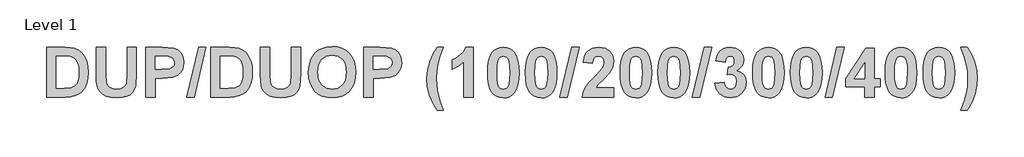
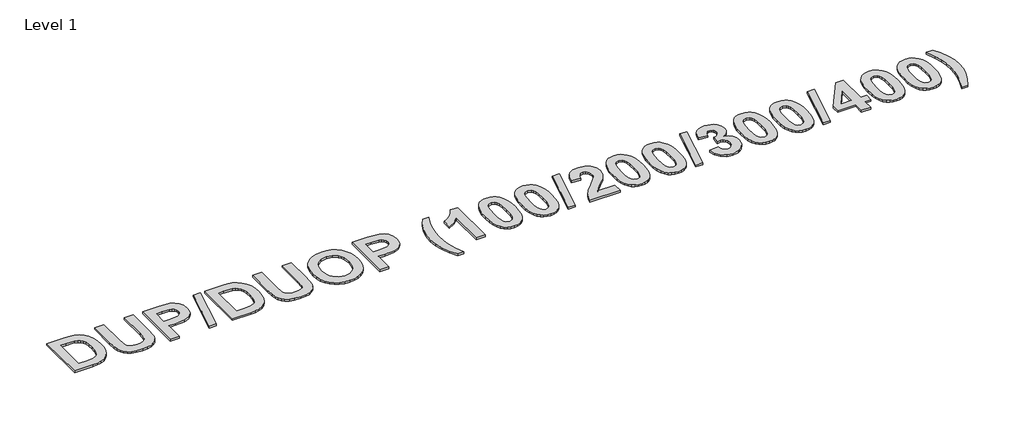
# One storey, part 10 of 42: 1 proxy.
"""IFC4 building model written with IfcOpenShell, lengths in millimetres."""

import ifcopenshell
import ifcopenshell.guid

model = None  # the IFC model being written
_history = None  # IfcOwnerHistory: only IFC2X3 demands one
_inside = {}  # id of a spatial element -> (the spatial element, [elements in it])
_under = {}  # id of a project, library or spatial element -> (it, [spatial elements below it])
_declared = {}  # id of a project -> (the project, [libraries it declares])
_typed = {}  # id of a type object -> (the type object, [elements of that type])
_made_of = {}  # id of a material, layer set ... -> (it, [elements and type objects made of it])


def new_model(schema):
    """Start an empty IFC model of exactly this schema.

    Asked for "IFC4X3", IfcOpenShell would pick the latest addendum, in which some entities
    have other attributes; the version numbers below select the first issue.
    IFC2X3 requires an IfcOwnerHistory on every rooted entity: one is made here for all.
    """
    global model, _history
    if schema == "IFC4X3":
        model = ifcopenshell.file(schema_version=(4, 3, 0, 0))
    else:
        model = ifcopenshell.file(schema=schema)
    _inside.clear()
    _under.clear()
    _declared.clear()
    _typed.clear()
    _made_of.clear()
    _history = None
    if model.schema == "IFC2X3":
        org = make("IfcOrganization", Name="unknown")
        user = make(
            "IfcPersonAndOrganization",
            ThePerson=make("IfcPerson", FamilyName="unknown"),
            TheOrganization=org,
        )
        app = make(
            "IfcApplication",
            ApplicationDeveloper=org,
            Version="unknown",
            ApplicationFullName="unknown",
            ApplicationIdentifier="unknown",
        )
        _history = make(
            "IfcOwnerHistory",
            OwningUser=user,
            OwningApplication=app,
            ChangeAction="ADDED",
            CreationDate=0,
        )
    return model


def make(cls, **values):
    """One entity of the class cls with the attributes given. An attribute that is None is left unset."""
    return model.create_entity(
        cls, **{name: value for name, value in values.items() if value is not None}
    )


def rooted(cls, **values):
    """An entity with a GlobalId (a new one), such as an element, a storey or a relation."""
    return make(cls, GlobalId=ifcopenshell.guid.new(), OwnerHistory=_history, **values)


def si_unit(unit_type, name, prefix=None):
    """IfcSIUnit, for example si_unit("LENGTHUNIT", "METRE", prefix="MILLI")."""
    return make("IfcSIUnit", UnitType=unit_type, Prefix=prefix, Name=name)


def assignment(units):
    """IfcUnitAssignment: the units of a project."""
    return None if units is None else make("IfcUnitAssignment", Units=units)


def point(xyz):
    """IfcCartesianPoint."""
    return None if xyz is None else make("IfcCartesianPoint", Coordinates=xyz)


def direction(xyz):
    """IfcDirection."""
    return None if xyz is None else make("IfcDirection", DirectionRatios=xyz)


def frame(location, z_axis=None, x_axis=None):
    """IfcAxis2Placement3D, a coordinate frame: its origin and axes. An axis left out is left unset."""
    return make(
        "IfcAxis2Placement3D",
        Location=point(location),
        Axis=direction(z_axis),
        RefDirection=direction(x_axis),
    )


def origin():
    """The frame at (0, 0, 0) with its axes left unset."""
    return frame((0.0, 0.0, 0.0))


def origin_with_axes():
    """The frame at (0, 0, 0) with the z axis (0, 0, 1) and the x axis (1, 0, 0) written out."""
    return frame((0.0, 0.0, 0.0), z_axis=(0.0, 0.0, 1.0), x_axis=(1.0, 0.0, 0.0))


def place(relative_to, where):
    """IfcLocalPlacement: puts the frame where relative to a parent placement (None: the world)."""
    return make(
        "IfcLocalPlacement", PlacementRelTo=relative_to, RelativePlacement=where
    )


def context(
    kind, dimensions, precision=None, world=None, true_north=None, identifier=None
):
    """IfcGeometricRepresentationContext, for example the 3D "Model" context."""
    return make(
        "IfcGeometricRepresentationContext",
        ContextIdentifier=identifier,
        ContextType=kind,
        CoordinateSpaceDimension=dimensions,
        Precision=precision,
        WorldCoordinateSystem=world,
        TrueNorth=true_north,
    )


def project(units=None, contexts=None):
    """IfcProject with its units and contexts."""
    return rooted(
        "IfcProject",
        Name="project",
        RepresentationContexts=contexts,
        UnitsInContext=assignment(units),
    )


def spatial(cls, under=None, at=None, **own):
    """A site, building, storey or space (cls), placed at a placement, below another one or the project."""
    s = rooted(cls, ObjectPlacement=at, **own)
    if under is not None:
        _under.setdefault(under.id(), (under, []))[1].append(s)
    return s


def polyline(points):
    """IfcPolyline through the points."""
    return make("IfcPolyline", Points=[point(p) for p in points])


def outline(outer, holes=None, kind="AREA"):
    """IfcArbitraryClosedProfileDef: a profile drawn as a closed curve; with holes, ...WithVoids."""
    if holes is None:
        return make("IfcArbitraryClosedProfileDef", ProfileType=kind, OuterCurve=outer)
    return make(
        "IfcArbitraryProfileDefWithVoids",
        ProfileType=kind,
        OuterCurve=outer,
        InnerCurves=holes,
    )


def extrude(swept, where, along, depth):
    """IfcExtrudedAreaSolid: the profile swept, set in the frame where, extruded along a direction by depth."""
    return make(
        "IfcExtrudedAreaSolid",
        SweptArea=swept,
        Position=where,
        ExtrudedDirection=direction(along),
        Depth=depth,
    )


def shape(context_of_items, identifier, shape_type, items):
    """IfcShapeRepresentation: the items that make up one representation, for example the "Body"."""
    return make(
        "IfcShapeRepresentation",
        ContextOfItems=context_of_items,
        RepresentationIdentifier=identifier,
        RepresentationType=shape_type,
        Items=items,
    )


def made_of(thing, what):
    """Note that an element or type object is made of a material, layer set ...; save() writes the relation."""
    if what is not None:
        _made_of.setdefault(what.id(), (what, []))[1].append(thing)
    return thing


def element(
    cls,
    number,
    at=None,
    inside=None,
    cuts=None,
    type_object=None,
    material=None,
    context=None,
    identifier="Body",
    shape_type=None,
    held_by="IfcProductDefinitionShape",
    body=None,
    shapes=None,
    **own,
):
    """One element of the class cls, such as IfcWall. Its Tag is "e" and its number.

    at: its placement. inside: the storey or other place that contains it. cuts: it is an
    opening in that element (IfcRelVoidsElement). A single representation is given by context,
    identifier, shape_type and body (its items); several are given by shapes. held_by: the class
    of the entity that holds the representations. save() writes the other relations.
    """
    e = rooted(cls, Tag="e%d" % number, ObjectPlacement=at, **own)
    if body is not None:
        shapes = [shape(context, identifier, shape_type, body)]
    if shapes is not None:
        e.Representation = make(held_by, Representations=shapes)
    if inside is not None:
        _inside.setdefault(inside.id(), (inside, []))[1].append(e)
    if cuts is not None:
        rooted(
            "IfcRelVoidsElement", RelatingBuildingElement=cuts, RelatedOpeningElement=e
        )
    if type_object is not None:
        _typed.setdefault(type_object.id(), (type_object, []))[1].append(e)
    return made_of(e, material)


def aggregate(whole, parts):
    """IfcRelAggregates: a whole, such as a stair, and the parts it consists of."""
    return rooted("IfcRelAggregates", RelatingObject=whole, RelatedObjects=parts)


def save(model, path):
    """Write the relations noted so far, then the file.

    IfcRelAggregates (storeys below a building ...), IfcRelContainedInSpatialStructure (elements
    in a storey), IfcRelDefinesByType, IfcRelAssociatesMaterial and IfcRelDeclares: one each for
    every whole, place, type object, material and project.
    """
    for whole, parts in _under.values():
        aggregate(whole, parts)
    for where, things in _inside.values():
        rooted(
            "IfcRelContainedInSpatialStructure",
            RelatedElements=things,
            RelatingStructure=where,
        )
    for kind, things in _typed.values():
        rooted("IfcRelDefinesByType", RelatedObjects=things, RelatingType=kind)
    for what, things in _made_of.values():
        rooted("IfcRelAssociatesMaterial", RelatedObjects=things, RelatingMaterial=what)
    for by, libraries in _declared.values():
        rooted("IfcRelDeclares", RelatingContext=by, RelatedDefinitions=libraries)
    model.write(path)


model = new_model("IFC4")

# Units and contexts
model_context = context("Model", 3, world=origin())
ifc_project = project(units=[si_unit("LENGTHUNIT", "METRE", prefix="MILLI")], contexts=[model_context])

# Site, building, storey
site = spatial("IfcSite", under=ifc_project)
building = spatial("IfcBuilding", under=site)
storey = spatial("IfcBuildingStorey", under=building, Name="Level 1", Elevation=0.0)

# Proxy
placement = place(None, origin())
element("IfcBuildingElementProxy", 1, Name="300mm Arial 2", ObjectType="300mm Arial 2", at=placement, inside=storey, context=model_context, shape_type="SweptSolid", body=[
    extrude(outline(polyline([(20343.7052644, -2889.2204924), (20438.1526406, -2889.2204924), (20466.3033991, -2890.43825), (20486.8629418, -2894.0915225), (20507.7704153, -2903.2879642), (20525.451622, -2917.5926614), (20539.5981689, -2936.3492904), (20549.9016628, -2958.9015272), (20556.1881384, -2986.2061815), (20558.2836302, -3019.2200625), (20556.3225661, -3048.5095034), (20550.4393739, -3073.4972553), (20538.7678797, -3098.6747876), (20522.9844769, -3118.5384689), (20507.2010741, -3130.146703), (20486.6731614, -3138.9082312), (20466.6987749, -3142.9410646), (20440.9360864, -3144.2853424), (20343.7052644, -3144.2853424), (20343.7052644, -2889.2204924)]), holes=[polyline([(20392.2890453, -2933.755625), (20392.2890453, -3099.7502099), (20433.6611713, -3099.7502099), (20467.1890409, -3097.3463249), (20489.5514974, -3086.9400333), (20497.6250717, -3077.2058805), (20504.0696976, -3062.743033), (20508.2923113, -3042.8477216), (20509.6998493, -3016.8161776), (20508.2923113, -2991.1483792), (20504.0696976, -2972.2177849), (20497.3245861, -2958.3638161), (20488.3495549, -2947.9258944), (20476.8915636, -2940.6193492), (20462.6975716, -2936.15951), (20417.2135371, -2933.755625), (20392.2890453, -2933.755625)])]), origin_with_axes(), (0.0, 0.0, 1.0), 10.0),
    extrude(outline(polyline([(20598.7701143, -2889.2204924), (20647.3538953, -2889.2204924), (20647.3538953, -3026.8112783), (20649.4414796, -3069.3220867), (20655.5302673, -3083.3579283), (20666.5849753, -3094.3414686), (20682.6056035, -3101.4345109), (20703.5921521, -3103.7988583), (20724.5549782, -3101.5689387), (20739.618797, -3094.8791798), (20749.3213197, -3084.9394316), (20754.2002573, -3072.9595442), (20756.6674024, -3029.7845045), (20756.6674024, -2889.2204924), (20805.2511834, -2889.2204924), (20805.2511834, -3023.0156704), (20801.0127546, -3087.8573052), (20794.9872271, -3105.3091939), (20785.3875021, -3119.8353016), (20772.079152, -3131.5621485), (20754.9277488, -3140.6162548), (20732.9369456, -3146.4045568), (20705.1103953, -3148.3339908), (20672.5156126, -3146.2305915), (20648.8721384, -3139.9203933), (20631.7128278, -3130.2415932), (20618.5705355, -3118.0323879), (20609.3345563, -3104.2258642), (20603.894185, -3089.7551091), (20600.051132, -3062.6481428), (20598.7701143, -3025.1032548), (20598.7701143, -2889.2204924)])), origin_with_axes(), (0.0, 0.0, 1.0), 10.0),
    extrude(outline(polyline([(20853.8349643, -3144.2853424), (20853.8349643, -2889.2204924), (20936.0098751, -2889.2204924), (20996.9293817, -2893.0161003), (21016.9749358, -2902.0702066), (21033.4621076, -2917.8457019), (21044.493093, -2939.7574299), (21048.1700881, -2967.2202345), (21046.0113361, -2988.7049566), (21039.5350802, -3006.4731461), (21029.7297598, -3020.6750456), (21017.5838146, -3031.460898), (20990.5401084, -3043.511953), (20936.452696, -3047.1177805), (20902.4187453, -3047.1177805), (20902.4187453, -3144.2853424), (20853.8349643, -3144.2853424)]), holes=[polyline([(20902.4187453, -2933.755625), (20902.4187453, -3002.582648), (20932.593828, -3002.582648), (20976.1484285, -2998.7870401), (20993.3551842, -2986.8625053), (20998.0285264, -2978.0772546), (20999.5863072, -2967.9793561), (20997.3959251, -2955.912486), (20990.824779, -2946.1546107), (20980.9166609, -2939.1643662), (20968.715363, -2935.4003884), (20929.0512606, -2933.755625), (20902.4187453, -2933.755625)])]), origin_with_axes(), (0.0, 0.0, 1.0), 10.0),
    extrude(outline(polyline([(21063.4790399, -3144.2853424), (21124.2087661, -2889.2204924), (21161.5322437, -2889.2204924), (21100.8025175, -3144.2853424), (21063.4790399, -3144.2853424)])), origin_with_axes(), (0.0, 0.0, 1.0), 10.0),
    extrude(outline(polyline([(21185.8241342, -2889.2204924), (21280.2715104, -2889.2204924), (21308.4222689, -2890.43825), (21328.9818116, -2894.0915225), (21349.8892851, -2903.2879642), (21367.5704918, -2917.5926614), (21381.7170387, -2936.3492904), (21392.0205326, -2958.9015272), (21398.3070082, -2986.2061815), (21400.4025, -3019.2200625), (21398.4414359, -3048.5095034), (21392.5582437, -3073.4972553), (21380.8867495, -3098.6747876), (21365.1033467, -3118.5384689), (21349.3199439, -3130.146703), (21328.7920312, -3138.9082312), (21308.8176447, -3142.9410646), (21283.0549562, -3144.2853424), (21185.8241342, -3144.2853424), (21185.8241342, -2889.2204924)]), holes=[polyline([(21234.4079151, -2933.755625), (21234.4079151, -3099.7502099), (21275.7800411, -3099.7502099), (21309.3079107, -3097.3463249), (21331.6703672, -3086.9400333), (21339.7439415, -3077.2058805), (21346.1885674, -3062.743033), (21350.4111811, -3042.8477216), (21351.8187191, -3016.8161776), (21350.4111811, -2991.1483792), (21346.1885674, -2972.2177849), (21339.4434559, -2958.3638161), (21330.4684247, -2947.9258944), (21319.0104334, -2940.6193492), (21304.8164414, -2936.15951), (21259.3324069, -2933.755625), (21234.4079151, -2933.755625)])]), origin_with_axes(), (0.0, 0.0, 1.0), 10.0),
    extrude(outline(polyline([(21440.8889842, -2889.2204924), (21489.4727651, -2889.2204924), (21489.4727651, -3026.8112783), (21491.5603494, -3069.3220867), (21497.6491371, -3083.3579283), (21508.7038451, -3094.3414686), (21524.7244733, -3101.4345109), (21545.711022, -3103.7988583), (21566.673848, -3101.5689387), (21581.7376668, -3094.8791798), (21591.4401895, -3084.9394316), (21596.3191271, -3072.9595442), (21598.7862722, -3029.7845045), (21598.7862722, -2889.2204924), (21647.3700532, -2889.2204924), (21647.3700532, -3023.0156704), (21643.1316244, -3087.8573052), (21637.1060969, -3105.3091939), (21627.5063719, -3119.8353016), (21614.1980218, -3131.5621485), (21597.0466186, -3140.6162548), (21575.0558154, -3146.4045568), (21547.2292651, -3148.3339908), (21514.6344824, -3146.2305915), (21490.9910083, -3139.9203933), (21473.8316976, -3130.2415932), (21460.6894053, -3118.0323879), (21451.4534261, -3104.2258642), (21446.0130548, -3089.7551091), (21442.1700018, -3062.6481428), (21440.8889842, -3025.1032548), (21440.8889842, -2889.2204924)])), origin_with_axes(), (0.0, 0.0, 1.0), 10.0),
    extrude(outline(polyline([(21687.8565373, -3018.3344207), (21690.7190583, -2982.5608164), (21699.3066211, -2953.0499651), (21709.4045196, -2934.6175443), (21722.6179795, -2918.1620026), (21738.0929892, -2904.6955021), (21754.9755368, -2895.2302049), (21780.1846992, -2887.6864342), (21808.999689, -2885.171844), (21835.2921812, -2887.3523417), (21858.8170425, -2893.8938346), (21879.5742732, -2904.7963229), (21897.5638731, -2920.0598065), (21912.0939345, -2939.2058807), (21922.4725498, -2961.7561406), (21928.699719, -2987.7105865), (21930.7754421, -3017.0692181), (21928.715534, -3046.2281849), (21922.5358099, -3072.0264573), (21912.2362698, -3094.4640351), (21897.8169136, -3113.5409185), (21879.9459264, -3128.7628877), (21859.2914935, -3139.6357228), (21835.8536148, -3146.1594238), (21809.6322903, -3148.3339908), (21783.1342028, -3146.1693082), (21759.4986362, -3139.6752603), (21738.7255905, -3128.8518472), (21720.8150658, -3113.6990689), (21706.3957096, -3094.7506826), (21696.0961694, -3072.5404458), (21689.9164453, -3047.0683585), (21687.8565373, -3018.3344207)]), holes=[polyline([(21736.4403183, -3016.563137), (21741.6039265, -3054.3136205), (21748.0584368, -3069.2865028), (21757.0947512, -3081.6578123), (21780.5405374, -3098.2635968), (21809.5690302, -3103.7988583), (21838.5342629, -3098.3031344), (21861.7902687, -3081.8159626), (21870.7158779, -3069.4505838), (21877.091313, -3054.337343), (21882.1916611, -3015.8672756), (21877.2257408, -2977.9744568), (21871.0183404, -2963.1557711), (21862.3279798, -2951.088901), (21839.2064018, -2935.0524577), (21809.5690302, -2929.7069766), (21779.8683985, -2935.1157178), (21756.5570401, -2951.3419415), (21747.7559743, -2963.5313781), (21741.4694987, -2978.4647229), (21736.4403183, -3016.563137)])]), origin_with_axes(), (0.0, 0.0, 1.0), 10.0),
    extrude(outline(polyline([(21971.2619262, -3144.2853424), (21971.2619262, -2889.2204924), (22053.4368369, -2889.2204924), (22114.3563435, -2893.0161003), (22134.4018977, -2902.0702066), (22150.8890694, -2917.8457019), (22161.9200549, -2939.7574299), (22165.59705, -2967.2202345), (22163.438298, -2988.7049566), (22156.9620421, -3006.4731461), (22147.1567217, -3020.6750456), (22135.0107764, -3031.460898), (22107.9670702, -3043.511953), (22053.8796579, -3047.1177805), (22019.8457071, -3047.1177805), (22019.8457071, -3144.2853424), (21971.2619262, -3144.2853424)]), holes=[polyline([(22019.8457071, -2933.755625), (22019.8457071, -3002.582648), (22050.0207898, -3002.582648), (22093.5753903, -2998.7870401), (22110.7821461, -2986.8625053), (22115.4554883, -2978.0772546), (22117.013269, -2967.9793561), (22114.822887, -2955.912486), (22108.2517408, -2946.1546107), (22098.3436227, -2939.1643662), (22086.1423249, -2935.4003884), (22046.4782225, -2933.755625), (22019.8457071, -2933.755625)])]), origin_with_axes(), (0.0, 0.0, 1.0), 10.0),
    extrude(outline(polyline([(22380.1754159, -3213.1123654), (22347.7862286, -3213.1123654), (22325.1153789, -3173.4403555), (22308.5965771, -3132.2342874), (22298.5144937, -3090.9333291), (22295.1537992, -3050.9766485), (22299.2657077, -3003.578995), (22311.6014334, -2958.806637), (22327.796027, -2922.5269516), (22347.7862286, -2889.2204924), (22380.1754159, -2889.2204924), (22362.6128219, -2936.4599956), (22351.5502064, -2976.0766529), (22345.6907367, -3012.9573095), (22343.7375801, -3051.9888106), (22348.4188299, -3108.6382583), (22361.2606366, -3163.7062028), (22380.1754159, -3213.1123654)])), origin_with_axes(), (0.0, 0.0, 1.0), 10.0),
    extrude(outline(polyline([(22534.0240555, -3144.2853424), (22485.4402746, -3144.2853424), (22485.4402746, -2961.9696436), (22457.3844063, -2985.8503432), (22424.7105484, -3002.582648), (22424.7105484, -2953.998867), (22444.1788538, -2944.9131306), (22465.2602927, -2930.1814275), (22483.716436, -2911.1638505), (22495.3088551, -2889.2204924), (22534.0240555, -2889.2204924), (22534.0240555, -3144.2853424)])), origin_with_axes(), (0.0, 0.0, 1.0), 10.0),
    extrude(outline(polyline([(22687.8726952, -2889.2204924), (22705.0043296, -2890.8652558), (22720.1511773, -2895.7995461), (22733.3132384, -2904.0233632), (22744.4905129, -2915.5367071), (22755.1458912, -2933.6646885), (22762.7568758, -2956.9246481), (22767.3234665, -2985.3165859), (22768.8456635, -3018.8405018), (22767.315559, -3052.3327876), (22762.7252457, -3080.7563554), (22755.0747236, -3104.1112052), (22744.3639926, -3122.3973369), (22733.2420707, -3133.744623), (22720.1195472, -3141.8498274), (22704.996422, -3146.71295), (22687.8726952, -3148.3339908), (22670.5651186, -3146.5547996), (22655.0169644, -3141.217226), (22641.2282327, -3132.3212701), (22629.1989233, -3119.8669317), (22619.4430249, -3102.8460026), (22612.474526, -3080.2502744), (22608.2934267, -3052.0797471), (22606.899727, -3018.3344207), (22608.4298314, -2985.0081927), (22613.0201447, -2956.7032376), (22620.6706668, -2933.4195555), (22631.3813978, -2915.1571463), (22642.5033197, -2903.8098602), (22655.6258432, -2895.7046559), (22670.7489684, -2890.8415333), (22687.8726952, -2889.2204924)]), holes=[polyline([(22687.8726952, -2933.755625), (22671.6781016, -2939.1011061), (22665.3520884, -2946.5737091), (22660.6708387, -2958.300556), (22656.7803406, -2982.4501111), (22655.4835079, -3018.8405018), (22656.6380053, -3054.7485339), (22660.1014975, -3077.3244933), (22665.3283659, -3090.5774908), (22671.7729918, -3098.5166373), (22687.8726952, -3103.7988583), (22704.0672889, -3098.4533772), (22710.393302, -3090.9807742), (22715.0745517, -3079.2539273), (22718.9650498, -3055.2308924), (22720.2618825, -3018.8405018), (22719.1073851, -2982.9720072), (22715.6438929, -2960.3881403), (22710.4170246, -2947.0956052), (22703.9723987, -2939.1011061), (22687.8726952, -2933.755625)])]), origin_with_axes(), (0.0, 0.0, 1.0), 10.0),
    extrude(outline(polyline([(22882.207819, -2889.2204924), (22899.3394534, -2890.8652558), (22914.4863011, -2895.7995461), (22927.6483622, -2904.0233632), (22938.8256367, -2915.5367071), (22949.481015, -2933.6646885), (22957.0919996, -2956.9246481), (22961.6585903, -2985.3165859), (22963.1807873, -3018.8405018), (22961.6506828, -3052.3327876), (22957.0603695, -3080.7563554), (22949.4098474, -3104.1112052), (22938.6991164, -3122.3973369), (22927.5771945, -3133.744623), (22914.454671, -3141.8498274), (22899.3315458, -3146.71295), (22882.207819, -3148.3339908), (22864.9002424, -3146.5547996), (22849.3520882, -3141.217226), (22835.5633565, -3132.3212701), (22823.5340471, -3119.8669317), (22813.7781487, -3102.8460026), (22806.8096498, -3080.2502744), (22802.6285505, -3052.0797471), (22801.2348508, -3018.3344207), (22802.7649552, -2985.0081927), (22807.3552685, -2956.7032376), (22815.0057906, -2933.4195555), (22825.7165216, -2915.1571463), (22836.8384435, -2903.8098602), (22849.960967, -2895.7046559), (22865.0840922, -2890.8415333), (22882.207819, -2889.2204924)]), holes=[polyline([(22882.207819, -2933.755625), (22866.0132254, -2939.1011061), (22859.6872122, -2946.5737091), (22855.0059625, -2958.300556), (22851.1154644, -2982.4501111), (22849.8186317, -3018.8405018), (22850.9731291, -3054.7485339), (22854.4366213, -3077.3244933), (22859.6634897, -3090.5774908), (22866.1081156, -3098.5166373), (22882.207819, -3103.7988583), (22898.4024127, -3098.4533772), (22904.7284258, -3090.9807742), (22909.4096755, -3079.2539273), (22913.3001736, -3055.2308924), (22914.5970063, -3018.8405018), (22913.4425089, -2982.9720072), (22909.9790167, -2960.3881403), (22904.7521484, -2947.0956052), (22898.3075225, -2939.1011061), (22882.207819, -2933.755625)])]), origin_with_axes(), (0.0, 0.0, 1.0), 10.0),
    extrude(outline(polyline([(22978.4897391, -3144.2853424), (23039.2194653, -2889.2204924), (23076.5429428, -2889.2204924), (23015.8132166, -3144.2853424), (22978.4897391, -3144.2853424)])), origin_with_axes(), (0.0, 0.0, 1.0), 10.0),
    extrude(outline(polyline([(23254.683473, -3095.7015615), (23254.683473, -3144.2853424), (23092.7375365, -3144.2853424), (23097.9090522, -3119.779949), (23108.2362687, -3096.6188334), (23127.4199035, -3070.4370465), (23159.1606745, -3036.8696392), (23196.7371926, -2996.1301146), (23203.7590671, -2981.422134), (23206.099692, -2966.9039338), (23204.1307204, -2952.7573869), (23198.2238056, -2942.3273728), (23188.8533987, -2935.8985619), (23176.4939505, -2933.755625), (23164.221485, -2935.8669319), (23154.7324653, -2942.2008525), (23148.343192, -2953.4216183), (23145.3699658, -2970.1934607), (23096.7861849, -2965.7652515), (23105.3895628, -2930.6163409), (23113.0124086, -2917.3771816), (23122.849359, -2907.0282194), (23147.4733652, -2893.6724242), (23177.5693727, -2889.2204924), (23209.7055195, -2894.2101353), (23234.1239302, -2909.1790639), (23249.5435873, -2931.5652429), (23254.683473, -2958.806637), (23249.0533213, -2990.9427838), (23231.2139642, -3022.8891502), (23201.0072514, -3054.7722564), (23173.2676838, -3082.4169339), (23164.1582249, -3095.7015615), (23254.683473, -3095.7015615)])), origin_with_axes(), (0.0, 0.0, 1.0), 10.0),
    extrude(outline(polyline([(23368.0456285, -2889.2204924), (23385.1772629, -2890.8652558), (23400.3241106, -2895.7995461), (23413.4861717, -2904.0233632), (23424.6634462, -2915.5367071), (23435.3188245, -2933.6646885), (23442.9298091, -2956.9246481), (23447.4963999, -2985.3165859), (23449.0185968, -3018.8405018), (23447.4884923, -3052.3327876), (23442.898179, -3080.7563554), (23435.2476569, -3104.1112052), (23424.5369259, -3122.3973369), (23413.415004, -3133.744623), (23400.2924805, -3141.8498274), (23385.1693553, -3146.71295), (23368.0456285, -3148.3339908), (23350.7380519, -3146.5547996), (23335.1898977, -3141.217226), (23321.401166, -3132.3212701), (23309.3718566, -3119.8669317), (23299.6159582, -3102.8460026), (23292.6474593, -3080.2502744), (23288.46636, -3052.0797471), (23287.0726603, -3018.3344207), (23288.6027647, -2985.0081927), (23293.193078, -2956.7032376), (23300.8436001, -2933.4195555), (23311.5543311, -2915.1571463), (23322.676253, -2903.8098602), (23335.7987765, -2895.7046559), (23350.9219017, -2890.8415333), (23368.0456285, -2889.2204924)]), holes=[polyline([(23368.0456285, -2933.755625), (23351.8510349, -2939.1011061), (23345.5250217, -2946.5737091), (23340.843772, -2958.300556), (23336.9532739, -2982.4501111), (23335.6564412, -3018.8405018), (23336.8109386, -3054.7485339), (23340.2744308, -3077.3244933), (23345.5012992, -3090.5774908), (23351.9459251, -3098.5166373), (23368.0456285, -3103.7988583), (23384.2402222, -3098.4533772), (23390.5662353, -3090.9807742), (23395.247485, -3079.2539273), (23399.1379831, -3055.2308924), (23400.4348158, -3018.8405018), (23399.2803184, -2982.9720072), (23395.8168262, -2960.3881403), (23390.5899579, -2947.0956052), (23384.145332, -2939.1011061), (23368.0456285, -2933.755625)])]), origin_with_axes(), (0.0, 0.0, 1.0), 10.0),
    extrude(outline(polyline([(23562.3807523, -2889.2204924), (23579.5123867, -2890.8652558), (23594.6592344, -2895.7995461), (23607.8212955, -2904.0233632), (23618.99857, -2915.5367071), (23629.6539483, -2933.6646885), (23637.2649329, -2956.9246481), (23641.8315237, -2985.3165859), (23643.3537206, -3018.8405018), (23641.8236161, -3052.3327876), (23637.2333028, -3080.7563554), (23629.5827807, -3104.1112052), (23618.8720497, -3122.3973369), (23607.7501278, -3133.744623), (23594.6276043, -3141.8498274), (23579.5044791, -3146.71295), (23562.3807523, -3148.3339908), (23545.0731757, -3146.5547996), (23529.5250215, -3141.217226), (23515.7362898, -3132.3212701), (23503.7069804, -3119.8669317), (23493.951082, -3102.8460026), (23486.9825831, -3080.2502744), (23482.8014838, -3052.0797471), (23481.4077841, -3018.3344207), (23482.9378885, -2985.0081927), (23487.5282018, -2956.7032376), (23495.1787239, -2933.4195555), (23505.8894549, -2915.1571463), (23517.0113768, -2903.8098602), (23530.1339003, -2895.7046559), (23545.2570255, -2890.8415333), (23562.3807523, -2889.2204924)]), holes=[polyline([(23562.3807523, -2933.755625), (23546.1861587, -2939.1011061), (23539.8601455, -2946.5737091), (23535.1788958, -2958.300556), (23531.2883977, -2982.4501111), (23529.991565, -3018.8405018), (23531.1460624, -3054.7485339), (23534.6095546, -3077.3244933), (23539.836423, -3090.5774908), (23546.2810489, -3098.5166373), (23562.3807523, -3103.7988583), (23578.575346, -3098.4533772), (23584.9013591, -3090.9807742), (23589.5826088, -3079.2539273), (23593.4731069, -3055.2308924), (23594.7699396, -3018.8405018), (23593.6154422, -2982.9720072), (23590.15195, -2960.3881403), (23584.9250817, -2947.0956052), (23578.4804558, -2939.1011061), (23562.3807523, -2933.755625)])]), origin_with_axes(), (0.0, 0.0, 1.0), 10.0),
    extrude(outline(polyline([(23658.6626724, -3144.2853424), (23719.3923986, -2889.2204924), (23756.7158761, -2889.2204924), (23695.9861499, -3144.2853424), (23658.6626724, -3144.2853424)])), origin_with_axes(), (0.0, 0.0, 1.0), 10.0),
    extrude(outline(polyline([(23772.9104698, -3072.9911743), (23821.4942507, -3067.3610226), (23825.2424135, -3082.986275), (23832.4382535, -3094.4363588), (23842.2910189, -3101.4582334), (23854.0099583, -3103.7988583), (23866.5829094, -3101.1182102), (23876.973386, -3093.076266), (23883.9478155, -3080.4954074), (23886.2726253, -3064.198016), (23884.1455034, -3048.778359), (23877.7641376, -3036.9328994), (23868.3146555, -3029.3891287), (23856.9831845, -3026.8745385), (23837.6888444, -3030.4803659), (23841.9272732, -2990.4367027), (23855.7575194, -2988.6970491), (23865.8712329, -2982.4659262), (23872.0628183, -2972.5973457), (23874.1266801, -2959.9453194), (23872.5847144, -2949.1990046), (23867.9588173, -2940.8723898), (23860.7708848, -2935.5348162), (23851.5428132, -2933.755625), (23842.1565911, -2935.8194868), (23834.2411672, -2942.0110721), (23828.4765877, -2952.1722307), (23825.5428991, -2966.1448123), (23776.9591182, -2958.8698971), (23782.5181022, -2937.1321345), (23790.338636, -2920.2495869), (23801.0612283, -2907.3366126), (23815.3263879, -2897.5075696), (23832.3196407, -2891.2922617), (23851.2265125, -2889.2204924), (23881.8760462, -2894.9613494), (23894.6625002, -2902.1374205), (23905.7567458, -2912.1839201), (23918.4720322, -2932.2057517), (23922.710461, -2954.6947285), (23920.4370501, -2970.6402354), (23913.6168171, -2984.8856262), (23902.2497623, -2997.430901), (23886.3358854, -3008.2760598), (23906.1995667, -3015.827738), (23921.6350388, -3029.1202731), (23931.5510644, -3046.9833527), (23934.8564063, -3068.2466644), (23928.9969366, -3099.0148109), (23911.4185276, -3124.8961121), (23898.9819811, -3135.1501841), (23885.1102204, -3142.4745212), (23853.0610563, -3148.3339908), (23822.7989909, -3143.1229375), (23798.1828923, -3127.4897775), (23780.968229, -3103.4430201), (23772.9104698, -3072.9911743)])), origin_with_axes(), (0.0, 0.0, 1.0), 10.0),
    extrude(outline(polyline([(24048.2185618, -2889.2204924), (24065.3501962, -2890.8652558), (24080.4970439, -2895.7995461), (24093.659105, -2904.0233632), (24104.8363795, -2915.5367071), (24115.4917579, -2933.6646885), (24123.1027424, -2956.9246481), (24127.6693332, -2985.3165859), (24129.1915301, -3018.8405018), (24127.6614256, -3052.3327876), (24123.0711124, -3080.7563554), (24115.4205902, -3104.1112052), (24104.7098592, -3122.3973369), (24093.5879373, -3133.744623), (24080.4654138, -3141.8498274), (24065.3422886, -3146.71295), (24048.2185618, -3148.3339908), (24030.9109852, -3146.5547996), (24015.362831, -3141.217226), (24001.5740993, -3132.3212701), (23989.5447899, -3119.8669317), (23979.7888915, -3102.8460026), (23972.8203927, -3080.2502744), (23968.6392933, -3052.0797471), (23967.2455936, -3018.3344207), (23968.775698, -2985.0081927), (23973.3660113, -2956.7032376), (23981.0165334, -2933.4195555), (23991.7272644, -2915.1571463), (24002.8491863, -2903.8098602), (24015.9717098, -2895.7046559), (24031.094835, -2890.8415333), (24048.2185618, -2889.2204924)]), holes=[polyline([(24048.2185618, -2933.755625), (24032.0239682, -2939.1011061), (24025.697955, -2946.5737091), (24021.0167053, -2958.300556), (24017.1262072, -2982.4501111), (24015.8293745, -3018.8405018), (24016.9838719, -3054.7485339), (24020.4473641, -3077.3244933), (24025.6742325, -3090.5774908), (24032.1188584, -3098.5166373), (24048.2185618, -3103.7988583), (24064.4131555, -3098.4533772), (24070.7391686, -3090.9807742), (24075.4204183, -3079.2539273), (24079.3109164, -3055.2308924), (24080.6077491, -3018.8405018), (24079.4532517, -2982.9720072), (24075.9897595, -2960.3881403), (24070.7628912, -2947.0956052), (24064.3182653, -2939.1011061), (24048.2185618, -2933.755625)])]), origin_with_axes(), (0.0, 0.0, 1.0), 10.0),
    extrude(outline(polyline([(24242.5536856, -2889.2204924), (24259.68532, -2890.8652558), (24274.8321677, -2895.7995461), (24287.9942288, -2904.0233632), (24299.1715033, -2915.5367071), (24309.8268817, -2933.6646885), (24317.4378662, -2956.9246481), (24322.004457, -2985.3165859), (24323.5266539, -3018.8405018), (24321.9965494, -3052.3327876), (24317.4062362, -3080.7563554), (24309.755714, -3104.1112052), (24299.044983, -3122.3973369), (24287.9230611, -3133.744623), (24274.8005376, -3141.8498274), (24259.6774124, -3146.71295), (24242.5536856, -3148.3339908), (24225.246109, -3146.5547996), (24209.6979548, -3141.217226), (24195.9092231, -3132.3212701), (24183.8799137, -3119.8669317), (24174.1240153, -3102.8460026), (24167.1555165, -3080.2502744), (24162.9744171, -3052.0797471), (24161.5807174, -3018.3344207), (24163.1108218, -2985.0081927), (24167.7011351, -2956.7032376), (24175.3516572, -2933.4195555), (24186.0623882, -2915.1571463), (24197.1843101, -2903.8098602), (24210.3068336, -2895.7046559), (24225.4299588, -2890.8415333), (24242.5536856, -2889.2204924)]), holes=[polyline([(24242.5536856, -2933.755625), (24226.359092, -2939.1011061), (24220.0330788, -2946.5737091), (24215.3518291, -2958.300556), (24211.461331, -2982.4501111), (24210.1644983, -3018.8405018), (24211.3189957, -3054.7485339), (24214.7824879, -3077.3244933), (24220.0093563, -3090.5774908), (24226.4539822, -3098.5166373), (24242.5536856, -3103.7988583), (24258.7482793, -3098.4533772), (24265.0742924, -3090.9807742), (24269.7555421, -3079.2539273), (24273.6460402, -3055.2308924), (24274.9428729, -3018.8405018), (24273.7883755, -2982.9720072), (24270.3248833, -2960.3881403), (24265.098015, -2947.0956052), (24258.6533891, -2939.1011061), (24242.5536856, -2933.755625)])]), origin_with_axes(), (0.0, 0.0, 1.0), 10.0),
    extrude(outline(polyline([(24338.8356057, -3144.2853424), (24399.5653319, -2889.2204924), (24436.8888094, -2889.2204924), (24376.1590832, -3144.2853424), (24338.8356057, -3144.2853424)])), origin_with_axes(), (0.0, 0.0, 1.0), 10.0),
    extrude(outline(polyline([(24542.1536681, -3144.2853424), (24542.1536681, -3091.6529131), (24444.9861062, -3091.6529131), (24444.9861062, -3051.3562093), (24548.6062016, -2893.2691408), (24590.7374491, -2893.2691408), (24590.7374491, -3051.1664289), (24623.1266364, -3051.1664289), (24623.1266364, -3091.6529131), (24590.7374491, -3091.6529131), (24590.7374491, -3144.2853424), (24542.1536681, -3144.2853424)]), holes=[polyline([(24542.1536681, -3051.1664289), (24542.1536681, -2968.2956567), (24487.8764754, -3051.1664289), (24542.1536681, -3051.1664289)])]), origin_with_axes(), (0.0, 0.0, 1.0), 10.0),
    extrude(outline(polyline([(24728.3914951, -2889.2204924), (24745.5231295, -2890.8652558), (24760.6699772, -2895.7995461), (24773.8320383, -2904.0233632), (24785.0093128, -2915.5367071), (24795.6646912, -2933.6646885), (24803.2756757, -2956.9246481), (24807.8422665, -2985.3165859), (24809.3644634, -3018.8405018), (24807.8343589, -3052.3327876), (24803.2440457, -3080.7563554), (24795.5935235, -3104.1112052), (24784.8827925, -3122.3973369), (24773.7608706, -3133.744623), (24760.6383471, -3141.8498274), (24745.515222, -3146.71295), (24728.3914951, -3148.3339908), (24711.0839185, -3146.5547996), (24695.5357644, -3141.217226), (24681.7470326, -3132.3212701), (24669.7177232, -3119.8669317), (24659.9618248, -3102.8460026), (24652.993326, -3080.2502744), (24648.8122266, -3052.0797471), (24647.4185269, -3018.3344207), (24648.9486313, -2985.0081927), (24653.5389446, -2956.7032376), (24661.1894667, -2933.4195555), (24671.9001977, -2915.1571463), (24683.0221196, -2903.8098602), (24696.1446431, -2895.7046559), (24711.2677683, -2890.8415333), (24728.3914951, -2889.2204924)]), holes=[polyline([(24728.3914951, -2933.755625), (24712.1969015, -2939.1011061), (24705.8708883, -2946.5737091), (24701.1896386, -2958.300556), (24697.2991405, -2982.4501111), (24696.0023078, -3018.8405018), (24697.1568052, -3054.7485339), (24700.6202974, -3077.3244933), (24705.8471658, -3090.5774908), (24712.2917917, -3098.5166373), (24728.3914951, -3103.7988583), (24744.5860888, -3098.4533772), (24750.9121019, -3090.9807742), (24755.5933516, -3079.2539273), (24759.4838497, -3055.2308924), (24760.7806824, -3018.8405018), (24759.626185, -2982.9720072), (24756.1626928, -2960.3881403), (24750.9358245, -2947.0956052), (24744.4911986, -2939.1011061), (24728.3914951, -2933.755625)])]), origin_with_axes(), (0.0, 0.0, 1.0), 10.0),
    extrude(outline(polyline([(24922.7266189, -2889.2204924), (24939.8582533, -2890.8652558), (24955.005101, -2895.7995461), (24968.1671621, -2904.0233632), (24979.3444366, -2915.5367071), (24989.999815, -2933.6646885), (24997.6107995, -2956.9246481), (25002.1773903, -2985.3165859), (25003.6995872, -3018.8405018), (25002.1694827, -3052.3327876), (24997.5791695, -3080.7563554), (24989.9286473, -3104.1112052), (24979.2179163, -3122.3973369), (24968.0959944, -3133.744623), (24954.9734709, -3141.8498274), (24939.8503458, -3146.71295), (24922.7266189, -3148.3339908), (24905.4190423, -3146.5547996), (24889.8708882, -3141.217226), (24876.0821564, -3132.3212701), (24864.052847, -3119.8669317), (24854.2969486, -3102.8460026), (24847.3284498, -3080.2502744), (24843.1473504, -3052.0797471), (24841.7536507, -3018.3344207), (24843.2837551, -2985.0081927), (24847.8740684, -2956.7032376), (24855.5245905, -2933.4195555), (24866.2353215, -2915.1571463), (24877.3572434, -2903.8098602), (24890.4797669, -2895.7046559), (24905.6028921, -2890.8415333), (24922.7266189, -2889.2204924)]), holes=[polyline([(24922.7266189, -2933.755625), (24906.5320253, -2939.1011061), (24900.2060121, -2946.5737091), (24895.5247624, -2958.300556), (24891.6342643, -2982.4501111), (24890.3374316, -3018.8405018), (24891.491929, -3054.7485339), (24894.9554212, -3077.3244933), (24900.1822896, -3090.5774908), (24906.6269155, -3098.5166373), (24922.7266189, -3103.7988583), (24938.9212126, -3098.4533772), (24945.2472257, -3090.9807742), (24949.9284754, -3079.2539273), (24953.8189735, -3055.2308924), (24955.1158062, -3018.8405018), (24953.9613088, -2982.9720072), (24950.4978166, -2960.3881403), (24945.2709483, -2947.0956052), (24938.8263224, -2939.1011061), (24922.7266189, -2933.755625)])]), origin_with_axes(), (0.0, 0.0, 1.0), 10.0),
    extrude(outline(polyline([(25036.0887745, -3213.1123654), (25054.0862819, -3167.1222499), (25063.765082, -3130.2099632), (25070.3757657, -3090.5142307), (25072.5266102, -3051.9888106), (25070.5813611, -3012.9573095), (25064.745614, -2976.0766529), (25053.690906, -2936.4599956), (25036.0887745, -2889.2204924), (25068.4779618, -2889.2204924), (25090.6743604, -2926.559785), (25107.2880524, -2966.0815521), (25117.6548065, -3006.9792271), (25121.1103911, -3048.4462433), (25118.3427604, -3084.9473391), (25110.0398681, -3123.9788402), (25093.3233784, -3168.8460885), (25068.4779618, -3213.1123654), (25036.0887745, -3213.1123654)])), origin_with_axes(), (0.0, 0.0, 1.0), 10.0),
])

save(model, "model.ifc")
